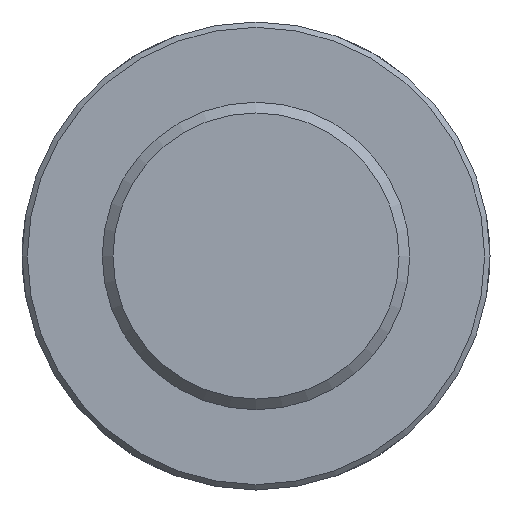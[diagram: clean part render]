
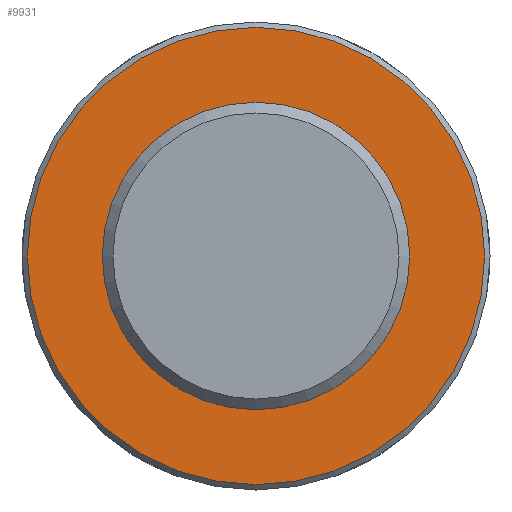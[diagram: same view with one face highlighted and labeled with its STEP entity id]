
A CAD part, front view. The second image highlights one B-rep face of the part: STEP entity #9931.
In plain terms, the highlighted planar face has unit normal (0, -1, 0) as drawn and (0, 1, 0) by its records, which use the part's own axes.
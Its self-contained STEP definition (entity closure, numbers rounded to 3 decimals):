
#85=CIRCLE('',#10264,85.5);
#379=PLANE('',#10267);
#916=FACE_OUTER_BOUND('',#1533,.T.);
#1533=EDGE_LOOP('',(#9054));
#4725=VERTEX_POINT('',#18581);
#6173=EDGE_CURVE('',#4725,#4725,#85,.T.);
#9054=ORIENTED_EDGE('',*,*,#6173,.F.);
#9931=ADVANCED_FACE('',(#916),#379,.T.);
#10264=AXIS2_PLACEMENT_3D('',#18582,#11584,#11585);
#10267=AXIS2_PLACEMENT_3D('',#18820,#11590,#11591);
#11584=DIRECTION('center_axis',(0.,-1.,0.));
#11585=DIRECTION('ref_axis',(1.,0.,0.));
#11590=DIRECTION('center_axis',(0.,1.,0.));
#11591=DIRECTION('ref_axis',(0.,0.,1.));
#18581=CARTESIAN_POINT('',(-85.5,75.,0.));
#18582=CARTESIAN_POINT('Origin',(0.,75.,0.));
#18820=CARTESIAN_POINT('Origin',(0.,75.,0.));
